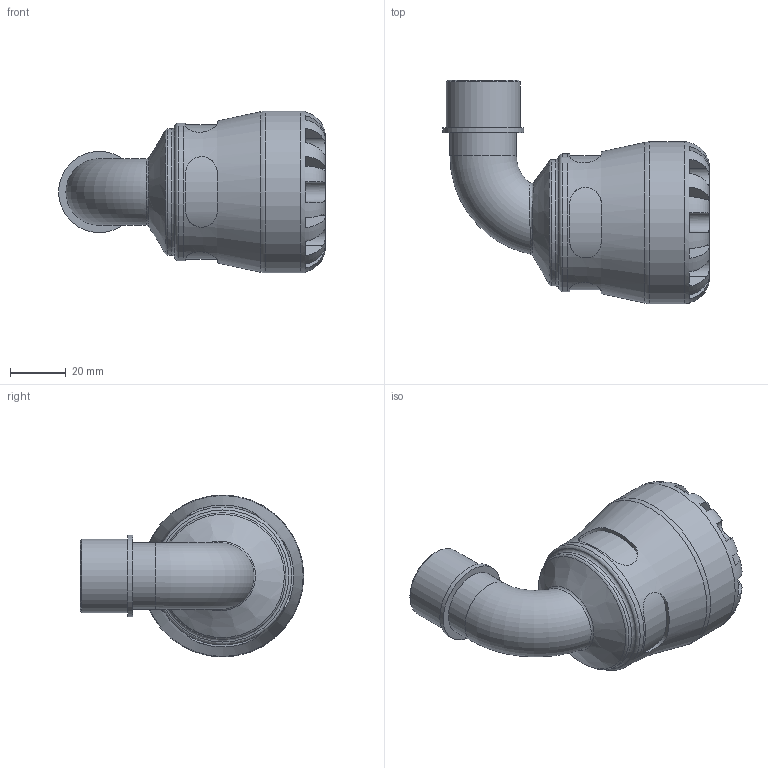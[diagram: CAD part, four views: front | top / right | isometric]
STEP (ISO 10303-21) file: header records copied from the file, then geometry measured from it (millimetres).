
FILE_DESCRIPTION(/* description */ ('PLASSON 90° ELBOW WITH THREADED MALE OFFTAKE 32X3/4" SERIES 1'),/* implementation_level */ '2;1');
FILE_NAME(/* name */ 'C:\Dropbox\KIMPROJECTS-Inventor\99-16-3568-Processing\S1\27.01.19\1085\108500032007_198500032007.ipt.stp',/* time_stamp */ '2019-01-27T09:13:33+02:00',/* author */ ('KIM'),/* organization */ (''),/* preprocessor_version */ 'ST-DEVELOPER v15.6',/* originating_system */ 'Autodesk Inventor 2015',/* authorisation */ '');
FILE_SCHEMA (('AUTOMOTIVE_DESIGN { 1 0 10303 214 3 1 1 }'));
Length unit declared in the file: millimetre
Products named in the file (1): 108500032007_198500032007
Bounding box: 95.54 x 80 x 58 mm (x, y, z)
Volume: 96964.9 mm3; surface area: 28998.3 mm2
Topology: 1 solids, 1 shells, 110 faces, 269 edges, 167 vertices
Faces by surface type: plane 61, cylinder 37, torus 7, bspline 3, cone 2
Full cylindrical faces by diameter (mm): 18.509 x2, 23.797 x1, 26.441 x1, 29.085 x1, 32 x1, 45.24 x1, 49.3 x1, 58 x1
Entity records: 4330 total; most frequent: CARTESIAN_POINT 1790, ORIENTED_EDGE 488, DIRECTION 487, EDGE_CURVE 244, AXIS2_PLACEMENT_3D 203, VERTEX_POINT 161, EDGE_LOOP 137, STYLED_ITEM 111
